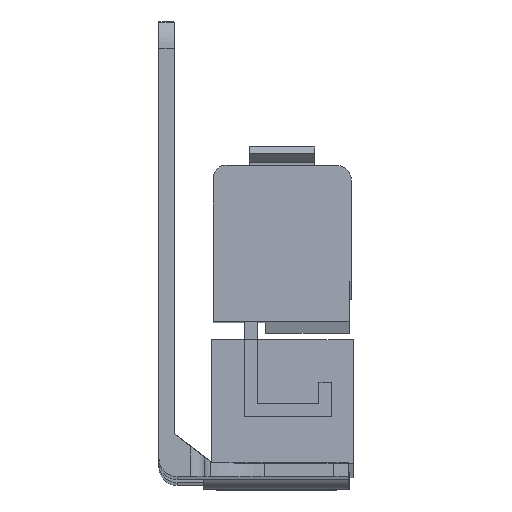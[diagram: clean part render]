
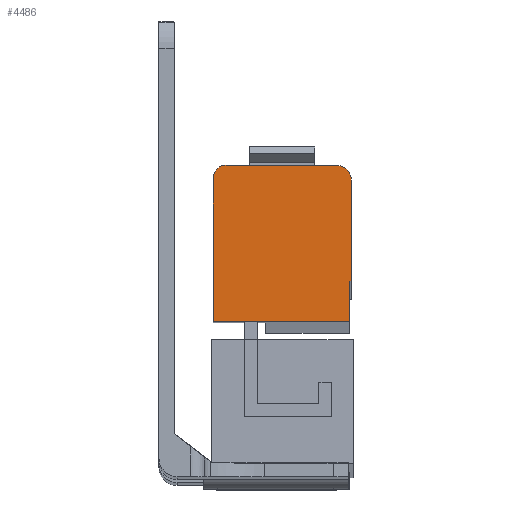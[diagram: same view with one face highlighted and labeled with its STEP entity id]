
A CAD part, front view. The second image highlights one B-rep face of the part: STEP entity #4486.
In plain terms, the highlighted planar face has unit normal (0, -1, 0.004).
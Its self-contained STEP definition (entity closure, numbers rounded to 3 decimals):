
#425 = LINE ( 'NONE', #3835, #426 ) ;
#426 = VECTOR ( 'NONE', #3836, 1000. ) ;
#427 = LINE ( 'NONE', #3837, #428 ) ;
#428 = VECTOR ( 'NONE', #3838, 1000. ) ;
#456 = LINE ( 'NONE', #3868, #457 ) ;
#457 = VECTOR ( 'NONE', #3869, 1000. ) ;
#460 = LINE ( 'NONE', #3872, #461 ) ;
#461 = VECTOR ( 'NONE', #3873, 1000. ) ;
#493 = CIRCLE ( 'NONE', #3261, 2.05 ) ;
#500 = CIRCLE ( 'NONE', #3262, 1.75 ) ;
#502 = LINE ( 'NONE', #3918, #503 ) ;
#503 = VECTOR ( 'NONE', #3919, 1000. ) ;
#510 = LINE ( 'NONE', #3926, #511 ) ;
#511 = VECTOR ( 'NONE', #3927, 1000. ) ;
#1105 = FACE_OUTER_BOUND ( 'NONE', #2591, .T. ) ;
#1337 = CARTESIAN_POINT ( 'NONE',  ( 24.45, -21.708, -4.778 ) ) ;
#1342 = CARTESIAN_POINT ( 'NONE',  ( 26.5, -21.769, -20.778 ) ) ;
#1351 = CARTESIAN_POINT ( 'NONE',  ( 7.5, -21.714, -6.528 ) ) ;
#1410 = CARTESIAN_POINT ( 'NONE',  ( 9.25, -21.708, -4.778 ) ) ;
#1442 = CARTESIAN_POINT ( 'NONE',  ( 26.25, -21.79, -26.278 ) ) ;
#1445 = CARTESIAN_POINT ( 'NONE',  ( 26.25, -21.769, -20.778 ) ) ;
#1448 = CARTESIAN_POINT ( 'NONE',  ( 7.5, -21.79, -26.278 ) ) ;
#1453 = CARTESIAN_POINT ( 'NONE',  ( 26.5, -21.716, -6.828 ) ) ;
#1683 = PLANE ( 'NONE',  #3395 ) ;
#1684 = CARTESIAN_POINT ( 'NONE',  ( 9.25, -21.714, -6.528 ) ) ;
#1685 = DIRECTION ( 'NONE',  ( 0., -1., 0.004 ) ) ;
#1686 = DIRECTION ( 'NONE',  ( 0., -0.004, -1. ) ) ;
#2183 = ORIENTED_EDGE ( 'NONE', *, *, #2899, .T. ) ;
#2242 = ORIENTED_EDGE ( 'NONE', *, *, #2881, .T. ) ;
#2280 = ORIENTED_EDGE ( 'NONE', *, *, #2866, .T. ) ;
#2388 = ORIENTED_EDGE ( 'NONE', *, *, #2905, .T. ) ;
#2406 = ORIENTED_EDGE ( 'NONE', *, *, #2883, .T. ) ;
#2435 = ORIENTED_EDGE ( 'NONE', *, *, #2865, .T. ) ;
#2447 = ORIENTED_EDGE ( 'NONE', *, *, #2903, .T. ) ;
#2454 = ORIENTED_EDGE ( 'NONE', *, *, #2909, .T. ) ;
#2591 = EDGE_LOOP ( 'NONE', ( #2280, #2183, #2388, #2447, #2242, #2454, #2406, #2435 ) ) ;
#2865 = EDGE_CURVE ( 'NONE', #3674, #3571, #425, .T. ) ;
#2866 = EDGE_CURVE ( 'NONE', #3571, #3682, #427, .T. ) ;
#2881 = EDGE_CURVE ( 'NONE', #3580, #3677, #456, .T. ) ;
#2883 = EDGE_CURVE ( 'NONE', #3671, #3674, #460, .T. ) ;
#2899 = EDGE_CURVE ( 'NONE', #3682, #3566, #493, .T. ) ;
#2903 = EDGE_CURVE ( 'NONE', #3639, #3580, #500, .T. ) ;
#2905 = EDGE_CURVE ( 'NONE', #3566, #3639, #502, .T. ) ;
#2909 = EDGE_CURVE ( 'NONE', #3677, #3671, #510, .T. ) ;
#3261 = AXIS2_PLACEMENT_3D ( 'NONE', #3904, #3905, #3906 ) ;
#3262 = AXIS2_PLACEMENT_3D ( 'NONE', #3913, #3914, #3915 ) ;
#3395 = AXIS2_PLACEMENT_3D ( 'NONE', #1684, #1685, #1686 ) ;
#3566 = VERTEX_POINT ( 'NONE', #1337 ) ;
#3571 = VERTEX_POINT ( 'NONE', #1342 ) ;
#3580 = VERTEX_POINT ( 'NONE', #1351 ) ;
#3639 = VERTEX_POINT ( 'NONE', #1410 ) ;
#3671 = VERTEX_POINT ( 'NONE', #1442 ) ;
#3674 = VERTEX_POINT ( 'NONE', #1445 ) ;
#3677 = VERTEX_POINT ( 'NONE', #1448 ) ;
#3682 = VERTEX_POINT ( 'NONE', #1453 ) ;
#3835 = CARTESIAN_POINT ( 'NONE',  ( 7.5, -21.769, -20.778 ) ) ;
#3836 = DIRECTION ( 'NONE',  ( 1., 0., 0. ) ) ;
#3837 = CARTESIAN_POINT ( 'NONE',  ( 26.5, -21.716, -6.828 ) ) ;
#3838 = DIRECTION ( 'NONE',  ( 0., 0.004, 1. ) ) ;
#3868 = CARTESIAN_POINT ( 'NONE',  ( 7.5, -21.714, -6.528 ) ) ;
#3869 = DIRECTION ( 'NONE',  ( 0., -0.004, -1. ) ) ;
#3872 = CARTESIAN_POINT ( 'NONE',  ( 26.25, -21.79, -26.278 ) ) ;
#3873 = DIRECTION ( 'NONE',  ( 0., 0.004, 1. ) ) ;
#3904 = CARTESIAN_POINT ( 'NONE',  ( 24.45, -21.716, -6.828 ) ) ;
#3905 = DIRECTION ( 'NONE',  ( 0., -1., 0.004 ) ) ;
#3906 = DIRECTION ( 'NONE',  ( 0., 0.004, 1. ) ) ;
#3913 = CARTESIAN_POINT ( 'NONE',  ( 9.25, -21.714, -6.528 ) ) ;
#3914 = DIRECTION ( 'NONE',  ( 0., -1., 0.004 ) ) ;
#3915 = DIRECTION ( 'NONE',  ( 0., -0.004, -1. ) ) ;
#3918 = CARTESIAN_POINT ( 'NONE',  ( 9.25, -21.708, -4.778 ) ) ;
#3919 = DIRECTION ( 'NONE',  ( -1., 0., 0. ) ) ;
#3926 = CARTESIAN_POINT ( 'NONE',  ( 26.25, -21.79, -26.278 ) ) ;
#3927 = DIRECTION ( 'NONE',  ( 1., 0., 0. ) ) ;
#4486 = ADVANCED_FACE ( 'NONE', ( #1105 ), #1683, .T. ) ;
